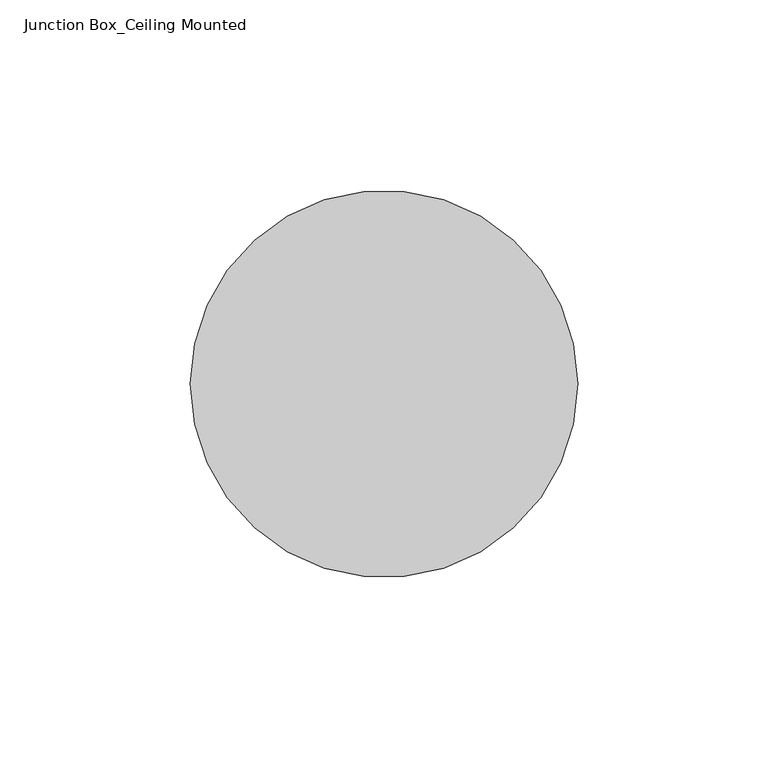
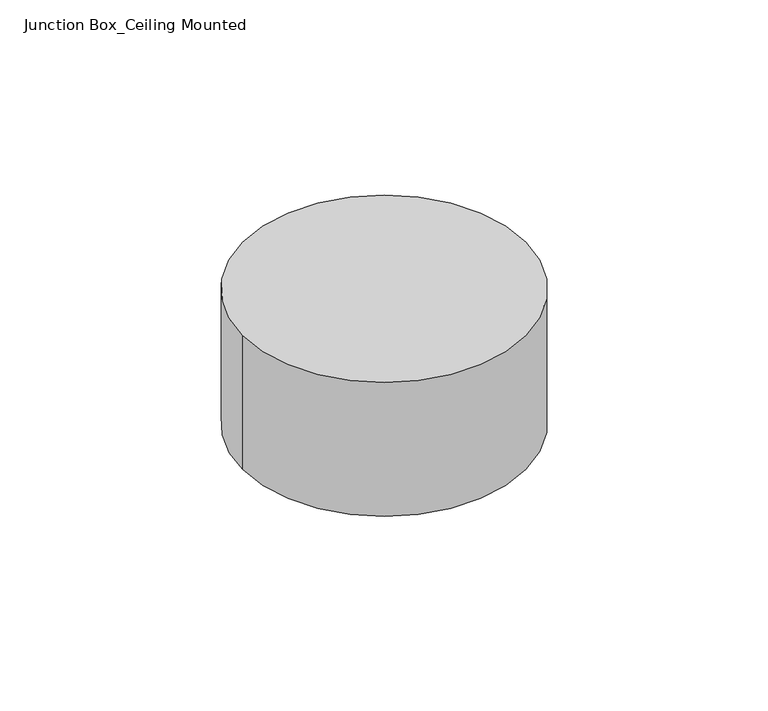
"""IFC4 building model written with IfcOpenShell, lengths in millimetres: proxy geometry, Junction Box_Ceiling Mounted : Ceiling & Floor Plan Rep."""

from ifc_helpers import new_model, si_unit, point, frame, frame_2d, origin, place, context, project, spatial, circle_curve, trimmed, segment, composite_curve, outline, extrude, source, transform, mapped, element, save


def junction_box_ceiling_mounted_8cef4fca(model_context):
    return source(origin(), model_context, "Body", "SweptSolid", [
        extrude(outline(composite_curve([segment(trimmed(circle_curve(frame_2d((0.0, -4.7231422)), 50.8), [point((-50.8, -4.7231422))], [point((50.8, -4.7231422))], False, "CARTESIAN"), True, "CONTINUOUS"), segment(trimmed(circle_curve(frame_2d((0.0, -4.7231422)), 50.8), [point((50.8, -4.7231422))], [point((-50.8, -4.7231422))], False, "CARTESIAN"), True, "CONTINUOUS")], self_intersect=False)), frame((0.0, 0.0, 2454.275), z_axis=(0.0, 0.0, 1.0), x_axis=(1.0, 0.0, 0.0)), (0.0, 0.0, 1.0), 50.8),
    ])


if __name__ == "__main__":
    model = new_model("IFC4")
    model_context = context("Model", 3, world=origin())
    ifc_project = project(units=[si_unit("LENGTHUNIT", "METRE", prefix="MILLI")], contexts=[model_context])
    site = spatial("IfcSite", under=ifc_project)
    building = spatial("IfcBuilding", under=site)
    placement = place(None, origin())
    junction_box_ceiling_mounted_shape = junction_box_ceiling_mounted_8cef4fca(model_context)
    element("IfcBuildingElementProxy", 1, Name="Junction Box_Ceiling Mounted : Ceiling & Floor Plan Rep", ObjectType="Junction Box_Ceiling Mounted : Ceiling & Floor Plan Rep", at=placement, inside=building, context=model_context, shape_type="MappedRepresentation", body=[
        mapped(junction_box_ceiling_mounted_shape, transform((0.0, 0.0, 0.0), x_axis=(1.0, 0.0, 0.0), y_axis=(0.0, 1.0, 0.0), z_axis=(0.0, 0.0, 1.0))),
    ])
    save(model, "model.ifc")
